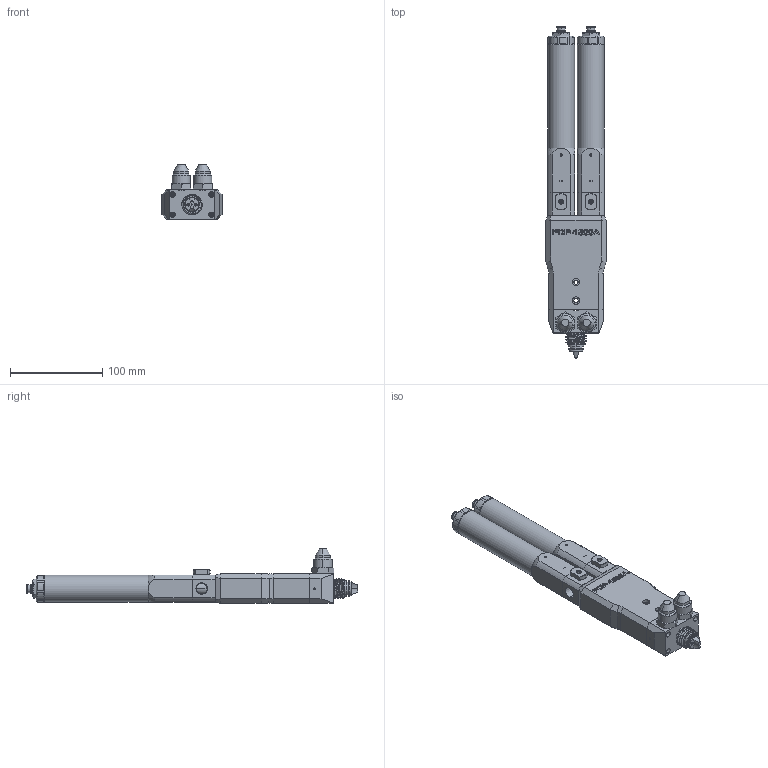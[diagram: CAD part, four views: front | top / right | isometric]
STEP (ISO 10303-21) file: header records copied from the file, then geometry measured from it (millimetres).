
FILE_DESCRIPTION (( 'STEP AP214' ), '1' );
FILE_NAME ('PDP-1500CA.STEP', '2024-10-11T12:26:44', ( '' ), ( '' ), 'SwSTEP 2.0', 'SolidWorks 2024', '' );
FILE_SCHEMA (( 'AUTOMOTIVE_DESIGN' ));
Length unit declared in the file: millimetre
Products named in the file (1): PDP-1500CA
Bounding box: 65 x 359 x 59.3 mm (x, y, z)
Volume: 529395.5 mm3; surface area: 127779.1 mm2
Topology: 12 solids, 12 shells, 1546 faces, 3904 edges, 2483 vertices
Faces by surface type: plane 759, cylinder 433, cone 321, bspline 13, torus 12, sphere 8
Full cylindrical faces by diameter (mm): 29 x2
Entity records: 53225 total; most frequent: CARTESIAN_POINT 15950, ORIENTED_EDGE 7748, DIRECTION 7722, EDGE_CURVE 3874, AXIS2_PLACEMENT_3D 2773, VERTEX_POINT 2483, LINE 2176, VECTOR 2176
